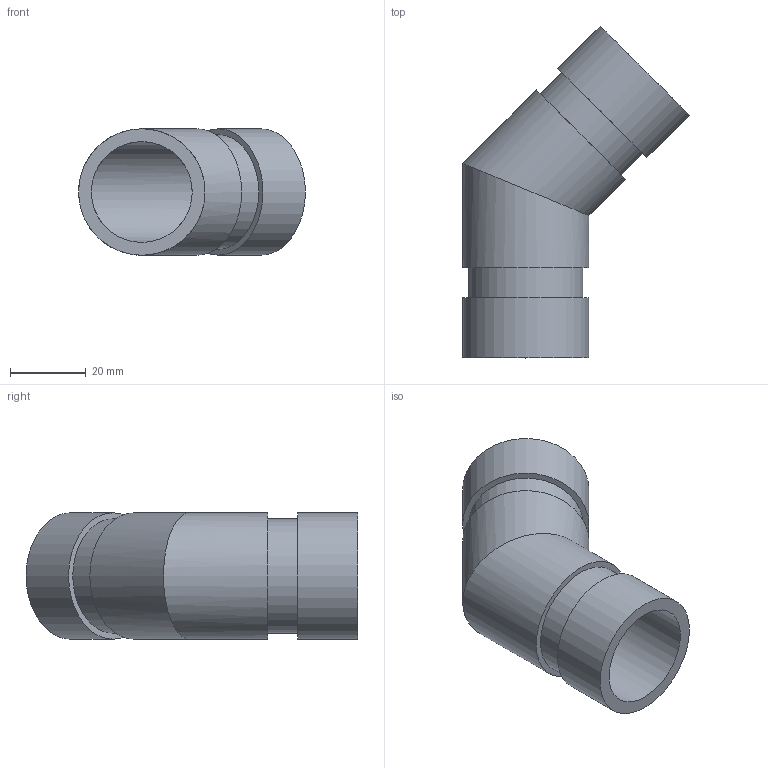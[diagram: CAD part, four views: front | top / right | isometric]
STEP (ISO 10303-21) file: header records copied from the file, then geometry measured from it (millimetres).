
FILE_DESCRIPTION(/* description */ ('VIC 45 DEG FABRICATED ELBOW No 11 SWS (OGS)','CAx-IF Rec.Pracs.---Representation and Presentation of Product Manufacturing Information (PMI)---4.0---2014-10-13'),/* implementation_level */ '2;1');
FILE_NAME(/* name */ 'C:\Users\kkamble\AppData\Roaming\Autodesk\ApplicationPlugins\Back Up\Victaulic_IPS_Elbow 45 Deg_No 11 SWS (OGS)\Victaulic_IPS_Elbow 45 Deg_No 11 SWS (OGS)_1 (25).stp',/* time_stamp */ '2020-09-16T22:14:08+06:00',/* author */ ('cgray'),/* organization */ ('Victaulic'),/* preprocessor_version */ 'ST-DEVELOPER v17.2',/* originating_system */ 'Autodesk Inventor 2019',/* authorisation */ '');
FILE_SCHEMA (('AP242_MANAGED_MODEL_BASED_3D_ENGINEERING_MIM_LF { 1 0 10303 442 1 1 4 }'));
Length unit declared in the file: inch
Products named in the file (1): 11 SWS-01.0
Bounding box: 59.94 x 87.69 x 33.4 mm (x, y, z)
Volume: 25803.4 mm3; surface area: 17883.3 mm2
Topology: 1 solids, 1 shells, 14 faces, 30 edges, 22 vertices
Faces by surface type: cylinder 8, plane 6
Full cylindrical faces by diameter (mm): 26.645 x2, 30.226 x2, 33.401 x4
Entity records: 554 total; most frequent: DIRECTION 108, CARTESIAN_POINT 84, ORIENTED_EDGE 60, AXIS2_PLACEMENT_3D 50, EDGE_CURVE 30, VERTEX_POINT 22, EDGE_LOOP 20, CIRCLE 16
